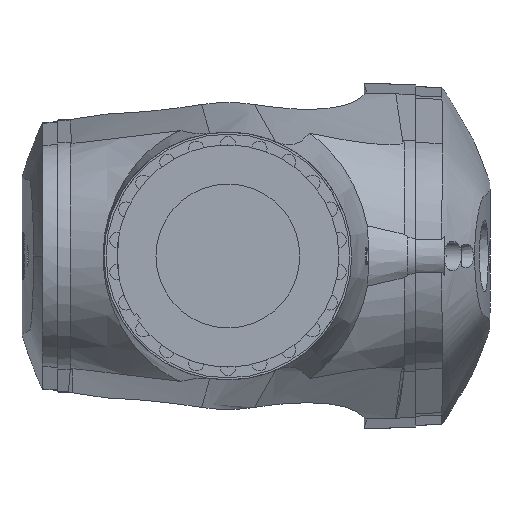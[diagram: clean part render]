
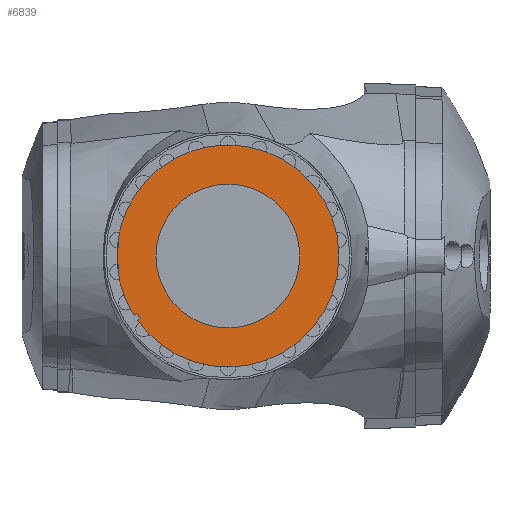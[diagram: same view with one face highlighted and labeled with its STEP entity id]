
A CAD part, left-side view. The second image highlights one B-rep face of the part: STEP entity #6839.
In plain terms, the highlighted planar face has unit normal (-1, 0, 0).
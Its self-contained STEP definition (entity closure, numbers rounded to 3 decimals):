
#491 = DIRECTION ( 'NONE',  ( 0., 0., -1. ) ) ;
#937 = ORIENTED_EDGE ( 'NONE', *, *, #32502, .T. ) ;
#2559 = EDGE_CURVE ( 'NONE', #31577, #20176, #28917, .T. ) ;
#2753 = EDGE_CURVE ( 'NONE', #27459, #7403, #23186, .T. ) ;
#3399 = VECTOR ( 'NONE', #39539, 1000. ) ;
#3523 = AXIS2_PLACEMENT_3D ( 'NONE', #21032, #24088, #5956 ) ;
#3606 = DIRECTION ( 'NONE',  ( -1., 0., 0. ) ) ;
#3917 = AXIS2_PLACEMENT_3D ( 'NONE', #30400, #12240, #33447 ) ;
#4437 = CARTESIAN_POINT ( 'NONE',  ( 736., 0., 2890. ) ) ;
#4454 = CIRCLE ( 'NONE', #5470, 90. ) ;
#5264 = DIRECTION ( 'NONE',  ( 0., -0.559, -0.829 ) ) ;
#5470 = AXIS2_PLACEMENT_3D ( 'NONE', #13059, #34263, #16080 ) ;
#5652 = ORIENTED_EDGE ( 'NONE', *, *, #35599, .T. ) ;
#5956 = DIRECTION ( 'NONE',  ( 0., 0., 1. ) ) ;
#6069 = FACE_OUTER_BOUND ( 'NONE', #25750, .T. ) ;
#6550 = VECTOR ( 'NONE', #5264, 1000. ) ;
#6839 = ADVANCED_FACE ( 'NONE', ( #6069, #7020 ), #27046, .T. ) ;
#7020 = FACE_BOUND ( 'NONE', #34025, .T. ) ;
#7225 = ORIENTED_EDGE ( 'NONE', *, *, #33105, .F. ) ;
#7403 = VERTEX_POINT ( 'NONE', #19536 ) ;
#7521 = DIRECTION ( 'NONE',  ( 0., 0., 1. ) ) ;
#10328 = DIRECTION ( 'NONE',  ( 0., 0.829, -0.559 ) ) ;
#10530 = CARTESIAN_POINT ( 'NONE',  ( 736., 0., 3029. ) ) ;
#10582 = CARTESIAN_POINT ( 'NONE',  ( 736., 0., 2800. ) ) ;
#11508 = LINE ( 'NONE', #15189, #3399 ) ;
#11818 = VERTEX_POINT ( 'NONE', #36871 ) ;
#12177 = EDGE_CURVE ( 'NONE', #37425, #27459, #29787, .T. ) ;
#12240 = DIRECTION ( 'NONE',  ( -1., 0., 0. ) ) ;
#12458 = CARTESIAN_POINT ( 'NONE',  ( 736., 114.157, 2817.825 ) ) ;
#13059 = CARTESIAN_POINT ( 'NONE',  ( 736., 0., 2890. ) ) ;
#14405 = ORIENTED_EDGE ( 'NONE', *, *, #2753, .T. ) ;
#15189 = CARTESIAN_POINT ( 'NONE',  ( 736., 117.425, 2815.621 ) ) ;
#15486 = CARTESIAN_POINT ( 'NONE',  ( 736., 109.683, 2811.193 ) ) ;
#16080 = DIRECTION ( 'NONE',  ( 0., 0., -1. ) ) ;
#16455 = CARTESIAN_POINT ( 'NONE',  ( 736., 0., 2980. ) ) ;
#16557 = ORIENTED_EDGE ( 'NONE', *, *, #12177, .T. ) ;
#17048 = EDGE_CURVE ( 'NONE', #36845, #34900, #4454, .T. ) ;
#17684 = AXIS2_PLACEMENT_3D ( 'NONE', #36970, #18746, #491 ) ;
#18292 = CIRCLE ( 'NONE', #32666, 139. ) ;
#18746 = DIRECTION ( 'NONE',  ( -1., 0., 0. ) ) ;
#18836 = EDGE_CURVE ( 'NONE', #7403, #31577, #20538, .T. ) ;
#19536 = CARTESIAN_POINT ( 'NONE',  ( 736., 112.952, 2808.988 ) ) ;
#20176 = VERTEX_POINT ( 'NONE', #10530 ) ;
#20538 = CIRCLE ( 'NONE', #29632, 139. ) ;
#21032 = CARTESIAN_POINT ( 'NONE',  ( 736., 0., 2890. ) ) ;
#21776 = CARTESIAN_POINT ( 'NONE',  ( 736., 0., 2890. ) ) ;
#23186 = LINE ( 'NONE', #31534, #32218 ) ;
#24088 = DIRECTION ( 'NONE',  ( -1., 0., 0. ) ) ;
#24842 = DIRECTION ( 'NONE',  ( 0., 0., 1. ) ) ;
#25660 = DIRECTION ( 'NONE',  ( -1., 0., 0. ) ) ;
#25750 = EDGE_LOOP ( 'NONE', ( #25940, #27561, #937, #5652, #16557, #14405 ) ) ;
#25940 = ORIENTED_EDGE ( 'NONE', *, *, #18836, .T. ) ;
#27046 = PLANE ( 'NONE',  #3523 ) ;
#27459 = VERTEX_POINT ( 'NONE', #15486 ) ;
#27561 = ORIENTED_EDGE ( 'NONE', *, *, #2559, .T. ) ;
#28917 = CIRCLE ( 'NONE', #3917, 139. ) ;
#29632 = AXIS2_PLACEMENT_3D ( 'NONE', #21776, #3606, #24842 ) ;
#29787 = LINE ( 'NONE', #38600, #6550 ) ;
#30400 = CARTESIAN_POINT ( 'NONE',  ( 736., 0., 2890. ) ) ;
#31534 = CARTESIAN_POINT ( 'NONE',  ( 736., 109.683, 2811.193 ) ) ;
#31577 = VERTEX_POINT ( 'NONE', #35935 ) ;
#32218 = VECTOR ( 'NONE', #10328, 1000. ) ;
#32502 = EDGE_CURVE ( 'NONE', #20176, #11818, #18292, .T. ) ;
#32666 = AXIS2_PLACEMENT_3D ( 'NONE', #4437, #25660, #7521 ) ;
#33105 = EDGE_CURVE ( 'NONE', #34900, #36845, #35854, .T. ) ;
#33447 = DIRECTION ( 'NONE',  ( 0., 0., 1. ) ) ;
#34025 = EDGE_LOOP ( 'NONE', ( #38015, #7225 ) ) ;
#34263 = DIRECTION ( 'NONE',  ( -1., 0., 0. ) ) ;
#34900 = VERTEX_POINT ( 'NONE', #16455 ) ;
#35599 = EDGE_CURVE ( 'NONE', #11818, #37425, #11508, .T. ) ;
#35854 = CIRCLE ( 'NONE', #17684, 90. ) ;
#35935 = CARTESIAN_POINT ( 'NONE',  ( 736., 0., 2751. ) ) ;
#36845 = VERTEX_POINT ( 'NONE', #10582 ) ;
#36871 = CARTESIAN_POINT ( 'NONE',  ( 736., 117.425, 2815.621 ) ) ;
#36970 = CARTESIAN_POINT ( 'NONE',  ( 736., 0., 2890. ) ) ;
#37425 = VERTEX_POINT ( 'NONE', #12458 ) ;
#38015 = ORIENTED_EDGE ( 'NONE', *, *, #17048, .F. ) ;
#38600 = CARTESIAN_POINT ( 'NONE',  ( 736., 114.157, 2817.825 ) ) ;
#39539 = DIRECTION ( 'NONE',  ( 0., -0.829, 0.559 ) ) ;
